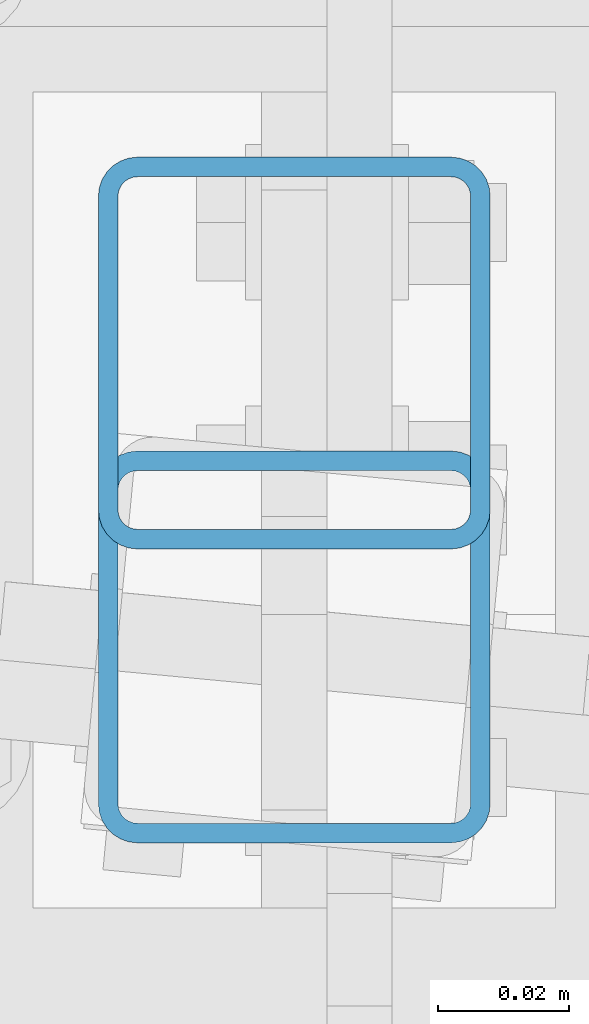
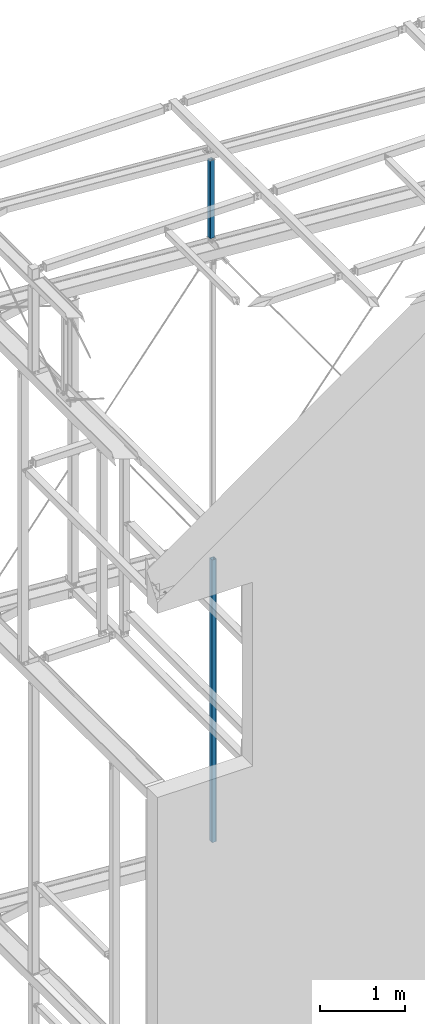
# One storey, part 35 of 271: 2 beams, 2 elements without a shape of their own.
"""IFC2X3 building model written with IfcOpenShell, lengths in millimetres."""

from ifc_helpers import new_model, si_unit, frame, origin_with_axes, origin_2d_with_axis, place, context, subcontext, project, spatial, hollow_rectangle, extrude, clip, halfspace, material, type_object, element, aggregate, save


model = new_model("IFC2X3")

# Units and contexts
model_context = context("Model", 3, precision=1e-05, world=origin_with_axes())
body_context = subcontext(model_context, "Body", "Model", "MODEL_VIEW")
ifc_project = project(units=[si_unit("LENGTHUNIT", "METRE", prefix="MILLI"), si_unit("AREAUNIT", "SQUARE_METRE"), si_unit("VOLUMEUNIT", "CUBIC_METRE"), si_unit("MASSUNIT", "GRAM", prefix="KILO"), si_unit("TIMEUNIT", "SECOND"), si_unit("PLANEANGLEUNIT", "RADIAN"), si_unit("SOLIDANGLEUNIT", "STERADIAN"), si_unit("THERMODYNAMICTEMPERATUREUNIT", "DEGREE_CELSIUS"), si_unit("LUMINOUSINTENSITYUNIT", "LUMEN")], contexts=[model_context])

# Site, building, storey
site_placement = place(None, origin_with_axes())
site = spatial("IfcSite", under=ifc_project, at=site_placement, Name="Undefined", CompositionType="ELEMENT")
building_placement = place(site_placement, origin_with_axes())
building = spatial("IfcBuilding", under=site, at=building_placement, Name="Undefined", CompositionType="ELEMENT")
storey_placement = place(building_placement, origin_with_axes())
storey = spatial("IfcBuildingStorey", under=building, at=storey_placement, Name="Undefined", CompositionType="ELEMENT", Elevation=0.0)

# Assembly, beam
assembly_1_placement = place(storey_placement, origin_with_axes())
assembly_1 = element("IfcElementAssembly", 1, at=assembly_1_placement, inside=storey, AssemblyPlace="NOTDEFINED", PredefinedType="RIGID_FRAME")
ifc_material = material(Name="STEEL/S355JR")
beam_type = type_object("IfcBeamType", Name="SHS60*3", PredefinedType="NOTDEFINED")
beam_1_placement = place(assembly_1_placement, frame((3168.37568709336, 4050.32498425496, 18644.3499999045), z_axis=(0.0, 1.0, 0.0), x_axis=(0.0, 0.0, 1.0)))
beam_1 = element("IfcBeam", 2, at=beam_1_placement, type_object=beam_type, material=ifc_material, Name="TĘŻNIK", ObjectType="SHS60*3", context=body_context, shape_type="Clipping", body=[
    clip(clip(extrude(hollow_rectangle(XDim=60.0, YDim=60.0, WallThickness=3.0, InnerFilletRadius=3.0, OuterFilletRadius=6.0, at=origin_2d_with_axis()), frame((1360.0, 0.0, 0.0), z_axis=(-1.0, 0.0, 1.38777878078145e-17), x_axis=(0.0, -1.0, 0.0)), (0.0, 0.0, 1.0), 1360.0), halfspace(frame((1249.0499999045, 15.0, 0.0), z_axis=(-1.0, 0.0, 1.38777878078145e-17), x_axis=(0.0, 0.0, 1.0)), True)), halfspace(frame((131.599999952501, 15.0, 0.0), z_axis=(1.0, 0.0, 0.0), x_axis=(0.0, 0.0, -1.0)), True)),
])
aggregate(assembly_1, [beam_1])

assembly_2_placement = place(storey_placement, origin_with_axes())
assembly_2 = element("IfcElementAssembly", 3, at=assembly_2_placement, inside=storey, AssemblyPlace="NOTDEFINED", PredefinedType="RIGID_FRAME")
beam_2_placement = place(assembly_2_placement, frame((3168.37568709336, 4005.32498425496, 10004.3499999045), z_axis=(0.0, 1.0, 0.0), x_axis=(0.0, 0.0, 1.0)))
beam_2 = element("IfcBeam", 4, at=beam_2_placement, type_object=beam_type, material=ifc_material, Name="TĘŻNIK", ObjectType="SHS60*3", context=body_context, shape_type="Clipping", body=[
    clip(clip(extrude(hollow_rectangle(XDim=60.0, YDim=60.0, WallThickness=3.0, InnerFilletRadius=3.0, OuterFilletRadius=6.0, at=origin_2d_with_axis()), frame((4320.0, 0.0, 9.09494701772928e-13), z_axis=(-1.0, 0.0, 1.38777878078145e-17), x_axis=(0.0, -1.0, 0.0)), (0.0, 0.0, 1.0), 4320.0), halfspace(frame((4188.4000000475, 15.0, 0.0), z_axis=(-1.0, 0.0, 1.38777878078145e-17), x_axis=(0.0, 0.0, 1.0)), True)), halfspace(frame((131.599999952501, 15.0, 0.0), z_axis=(1.0, 0.0, 0.0), x_axis=(0.0, 0.0, -1.0)), True)),
])
aggregate(assembly_2, [beam_2])

save(model, "model.ifc")
